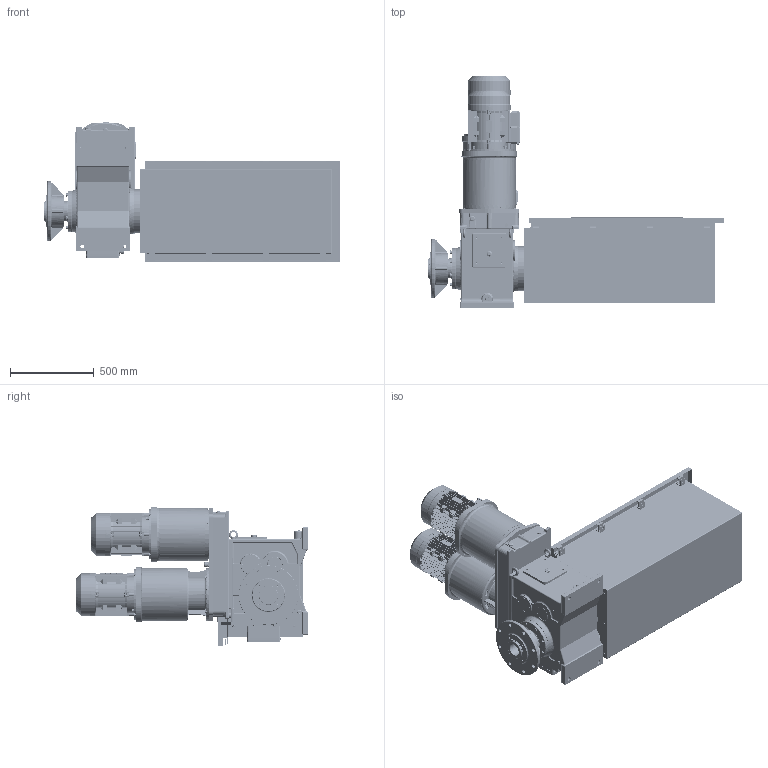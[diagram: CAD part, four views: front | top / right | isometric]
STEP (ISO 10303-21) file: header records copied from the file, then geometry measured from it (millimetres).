
FILE_DESCRIPTION(/* description */ (''),/* implementation_level */ '2;1');
FILE_NAME(/* name */ 'K:\NEMANJA\CABLE REEL\CABLE REEL DA\0700-6\07006007 DACR\STEP\75904 .stp',/* time_stamp */ '2017-03-16T13:09:39+01:00',/* author */ ('zeldjo01'),/* organization */ ('Hillmar Industries Ltd.'),/* preprocessor_version */ 'ST-DEVELOPER v16.1',/* originating_system */ 'Autodesk Inventor 2016',/* authorisation */ '');
FILE_SCHEMA (('AUTOMOTIVE_DESIGN { 1 0 10303 214 3 1 1 }'));
Products named in the file (1): 75904 
Bounding box: 1771.76 x 1383.71 x 833 mm (x, y, z)
Volume: 85611983.4 mm3; surface area: 15688362.7 mm2
Topology: 17 solids, 17 shells, 10955 faces, 29366 edges, 18879 vertices
Faces by surface type: plane 6476, cylinder 2318, bspline 909, cone 831, torus 329, sphere 92
Full cylindrical faces by diameter (mm): 3 x8, 5 x8, 7 x4, 8 x4, 8.376 x16, 8.731 x1, 10 x45, 10.106 x60, 10.38 x5, 10.5 x4, 11 x12, 11.053 x21, 12 x38, 12.5 x6, 13 x45, 13.2 x5, 13.5 x12, 14 x8, 14.3 x4, 15 x21, 16.974 x4, 17 x4, 17.2 x21, 17.336 x1, 17.4 x7, 17.475 x1, 18 x6, 18.256 x3, 18.38 x4, 20 x17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
Entity records: 370563 total; most frequent: CARTESIAN_POINT 96503, ORIENTED_EDGE 55964, DIRECTION 50746, EDGE_CURVE 27969, VERTEX_POINT 18451, LINE 16916, VECTOR 16916, AXIS2_PLACEMENT_3D 16915
